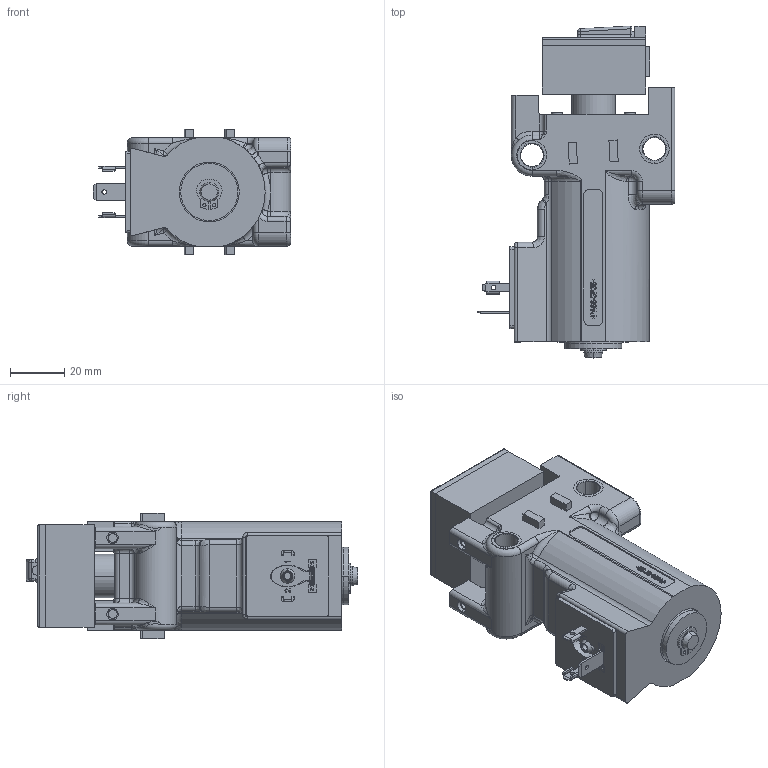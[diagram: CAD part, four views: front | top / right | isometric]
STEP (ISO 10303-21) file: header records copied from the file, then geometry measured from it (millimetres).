
FILE_DESCRIPTION((''),'2;1');
FILE_NAME('VEREINZELER_TS1_MSM_ASM','2023-03-30T13:50:43',('j.happel'),(''),'CREO PARAMETRIC BY PTC INC, 2020044','CREO PARAMETRIC BY PTC INC, 2020044','');
FILE_SCHEMA(('AUTOMOTIVE_DESIGN { 1 0 10303 214 1 1 1 1 }'));
Products named in the file (60): 100000073200_Z03_000_1_1_AF0; 100000073200_Z03_000_1_2_AF0; 100000073200_Z03_000_1_3_AF0; 100000073200_Z03_000_1_4; 100000073200_Z03_000_1_5; 100000073200_Z03_000_1_6; 100000073200_Z03_000_1_7; 100000073200_Z03_000_1_8; 100000073200_Z03_000_1_9_AF0; 100000073200_Z03_000_1_10_AF0; 100000073200_Z03_000_1_11_AF0; 100000073200_Z03_000_1_AF0_ASM; 100000060237_Z03_000_1_AF0; 100000060260_Z03_000_1_1_AF0; 100000060260_Z03_000_1_2_AF0; 100000060260_Z03_000_1_3_AF0; 100000060260_Z03_000_1_AF0_ASM; 100000060315_Z03_000_ASM_1_AF0_ASM; 100000066740_Z03_000_1_1_AF0; 100000066740_Z03_000_1_2_AF0; 100000066740_Z03_000_1_AF0_ASM; 100000060316_Z03_000_ASM_1_AF0_ASM; 100000060378_Z03_000_1_AF0; 100000058728_Z03_000_1_AF0; 100000070295_Z03_000_ASM_1_AF0_ASM; 100000060903_Z03_000_1_AF0; 100000060488_Z03_000_1; 100000060956_Z03_000_1; 100000060957_Z03_000_ASM_1_AF0_ASM; 100000060889_Z03_000_1_AF0; 100000058728_Z03_000_1_AF1; 100000070293_Z03_000_ASM_1_AF0_ASM; 100000070294_Z03_000_ASM_1_AF0_ASM; 100000036703_Z03_000_1_AF0; 100000036703_Z03_000_1_AF1; 100000068769_Z03_000_1_AF0; 100000073201_Z03_000_ASM_1_AF0_ASM; 100000072605_Z03_000_1_AF0; 100000072604_Z03_000_1_AF0; 100000069715_Z03_000_1_AF0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
Assembly tree (59 placements, depth 10):
  VEREINZELER_TS1_MSM_ASM
    100000073367_Z03_000_ASM_1_AF0_ASM
      100000073201_Z03_000_ASM_1_AF0_ASM
        100000073200_Z03_000_1_AF0_ASM
          100000073200_Z03_000_1_1_AF0
          100000073200_Z03_000_1_2_AF0
          100000073200_Z03_000_1_3_AF0
          100000073200_Z03_000_1_4
          100000073200_Z03_000_1_5
          100000073200_Z03_000_1_6
          100000073200_Z03_000_1_7
          100000073200_Z03_000_1_8
          100000073200_Z03_000_1_9_AF0
          100000073200_Z03_000_1_10_AF0
          100000073200_Z03_000_1_11_AF0
        100000070294_Z03_000_ASM_1_AF0_ASM
          100000070293_Z03_000_ASM_1_AF0_ASM
            100000070295_Z03_000_ASM_1_AF0_ASM
              100000060316_Z03_000_ASM_1_AF0_ASM
                100000060315_Z03_000_ASM_1_AF0_ASM
                  100000060237_Z03_000_1_AF0
                  100000060260_Z03_000_1_AF0_ASM
                100000066740_Z03_000_1_AF0_ASM
                  100000066740_Z03_000_1_1_AF0
                  100000066740_Z03_000_1_2_AF0
              100000060378_Z03_000_1_AF0
              100000058728_Z03_000_1_AF0
            100000060957_Z03_000_ASM_1_AF0_ASM
              100000060903_Z03_000_1_AF0
              100000060488_Z03_000_1
              100000060956_Z03_000_1
            100000060889_Z03_000_1_AF0
            100000058728_Z03_000_1_AF1
        100000036703_Z03_000_1_AF0
        100000036703_Z03_000_1_AF1
        100000068769_Z03_000_1_AF0
      100000072605_Z03_000_1_AF0
      100000072604_Z03_000_1_AF0
      100000069715_Z03_000_1_AF0
      100000069715_Z03_000_1_AF1
      100000069715_Z03_000_1_AF2
      100000069715_Z03_000_1_AF3
      100000073365_Z03_000_ASM_1_AF0_ASM
        100000068902_Z03_000_1_AF0
      100000072614_Z03_000_1
      100000068752_Z03_000_1
      100000068754_Z03_000_1_AF0
      100000075382_Z03_000_1_AF0
    BGR_DAEMPFER_LINKS_AF0_ASM
      GRUNDPLATTE_DAUERLAUF_AF0
      STICKAUFNAHME_LINKS_AF0
      DECKEL_LINKS_AF0
      ANSCHLAG_AF0
      KOLBENSTANGE_AF0
      I10642_03_008_88_AF1
      I10642_03_008_88_AF0
      DEI4762_0030_0160_129_AF0
Bounding box: 72.5 x 121.95 x 46 mm (x, y, z)
Volume: 67766.9 mm3; surface area: 64938.1 mm2
Topology: 38 solids, 38 shells, 3657 faces, 10018 edges, 6518 vertices
Faces by surface type: plane 2591, cylinder 609, bspline 238, torus 95, cone 73, sphere 45, extrusion 6
Entity records: 160958 total; most frequent: CARTESIAN_POINT 39533, ORIENTED_EDGE 19954, DIRECTION 17735, EDGE_CURVE 9977, VECTOR 7801, LINE 7795, PRESENTATION_STYLE_ASSIGNMENT 7437, STYLED_ITEM 7375
